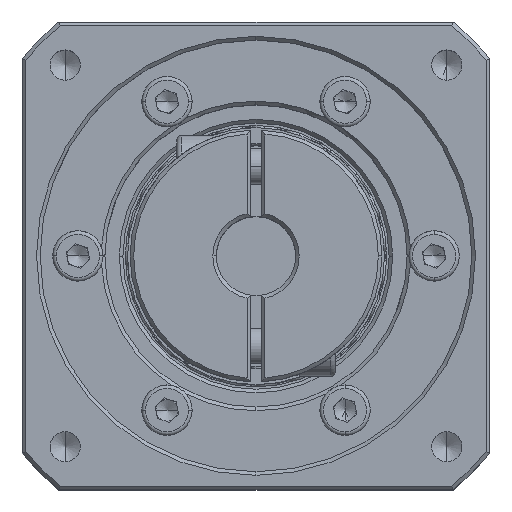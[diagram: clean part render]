
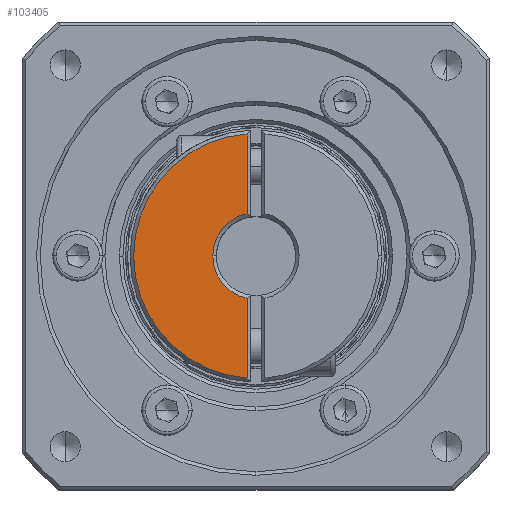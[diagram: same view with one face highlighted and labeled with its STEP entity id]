
A CAD part, top view. The second image highlights one B-rep face of the part: STEP entity #103405.
In plain terms, the highlighted planar face has unit normal (0, 0, 1).
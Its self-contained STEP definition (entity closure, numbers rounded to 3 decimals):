
#2596 = VERTEX_POINT ( 'NONE', #109045 ) ;
#3838 = ORIENTED_EDGE ( 'NONE', *, *, #73944, .T. ) ;
#4909 = EDGE_CURVE ( 'NONE', #2596, #35291, #75217, .T. ) ;
#5046 = VECTOR ( 'NONE', #26161, 1000. ) ;
#6022 = DIRECTION ( 'NONE',  ( -1., 0., 0. ) ) ;
#6713 = VERTEX_POINT ( 'NONE', #62927 ) ;
#15050 = DIRECTION ( 'NONE',  ( 0., 1., 0. ) ) ;
#18304 = CIRCLE ( 'NONE', #73866, 17. ) ;
#19408 = VERTEX_POINT ( 'NONE', #117345 ) ;
#21352 = ORIENTED_EDGE ( 'NONE', *, *, #71288, .F. ) ;
#26161 = DIRECTION ( 'NONE',  ( 0., 1., 0. ) ) ;
#27242 = CIRCLE ( 'NONE', #30493, 6. ) ;
#29416 = ORIENTED_EDGE ( 'NONE', *, *, #4909, .T. ) ;
#29941 = DIRECTION ( 'NONE',  ( 0., 0., -1. ) ) ;
#30493 = AXIS2_PLACEMENT_3D ( 'NONE', #115686, #60860, #6022 ) ;
#31587 = VECTOR ( 'NONE', #15050, 1000. ) ;
#35291 = VERTEX_POINT ( 'NONE', #58849 ) ;
#35612 = EDGE_CURVE ( 'NONE', #90351, #19408, #115603, .T. ) ;
#41445 = CARTESIAN_POINT ( 'NONE',  ( -28.188, -8.922, 185.502 ) ) ;
#44721 = CARTESIAN_POINT ( 'NONE',  ( -26.938, 27.764, 185.502 ) ) ;
#51970 = CARTESIAN_POINT ( 'NONE',  ( -26.938, 10.264, 185.502 ) ) ;
#53962 = DIRECTION ( 'NONE',  ( 1., 0., 0. ) ) ;
#58849 = CARTESIAN_POINT ( 'NONE',  ( -28.188, 27.218, 185.502 ) ) ;
#60860 = DIRECTION ( 'NONE',  ( 0., 0., -1. ) ) ;
#61177 = DIRECTION ( 'NONE',  ( 1., 0., 0. ) ) ;
#62927 = CARTESIAN_POINT ( 'NONE',  ( -28.188, -6.69, 185.502 ) ) ;
#65734 = AXIS2_PLACEMENT_3D ( 'NONE', #84740, #29941, #93929 ) ;
#71288 = EDGE_CURVE ( 'NONE', #6713, #35291, #18304, .T. ) ;
#73866 = AXIS2_PLACEMENT_3D ( 'NONE', #51970, #115990, #61177 ) ;
#73944 = EDGE_CURVE ( 'NONE', #6713, #90351, #104606, .T. ) ;
#75161 = CARTESIAN_POINT ( 'NONE',  ( -28.188, 4.395, 185.502 ) ) ;
#75217 = LINE ( 'NONE', #81377, #5046 ) ;
#77920 = FACE_OUTER_BOUND ( 'NONE', #97181, .T. ) ;
#81377 = CARTESIAN_POINT ( 'NONE',  ( -28.188, -8.922, 185.502 ) ) ;
#84358 = ORIENTED_EDGE ( 'NONE', *, *, #96585, .T. ) ;
#84740 = CARTESIAN_POINT ( 'NONE',  ( -26.938, 10.264, 185.502 ) ) ;
#89981 = PLANE ( 'NONE',  #90421 ) ;
#90351 = VERTEX_POINT ( 'NONE', #75161 ) ;
#90421 = AXIS2_PLACEMENT_3D ( 'NONE', #44721, #108776, #53962 ) ;
#93929 = DIRECTION ( 'NONE',  ( -1., 0., 0. ) ) ;
#96585 = EDGE_CURVE ( 'NONE', #19408, #2596, #27242, .T. ) ;
#97181 = EDGE_LOOP ( 'NONE', ( #21352, #3838, #103194, #84358, #29416 ) ) ;
#103194 = ORIENTED_EDGE ( 'NONE', *, *, #35612, .T. ) ;
#103405 = ADVANCED_FACE ( 'NONE', ( #77920 ), #89981, .F. ) ;
#104606 = LINE ( 'NONE', #41445, #31587 ) ;
#108776 = DIRECTION ( 'NONE',  ( 0., 0., -1. ) ) ;
#109045 = CARTESIAN_POINT ( 'NONE',  ( -28.188, 16.132, 185.502 ) ) ;
#115603 = CIRCLE ( 'NONE', #65734, 6. ) ;
#115686 = CARTESIAN_POINT ( 'NONE',  ( -26.938, 10.264, 185.502 ) ) ;
#115990 = DIRECTION ( 'NONE',  ( 0., 0., -1. ) ) ;
#117345 = CARTESIAN_POINT ( 'NONE',  ( -32.938, 10.264, 185.502 ) ) ;
